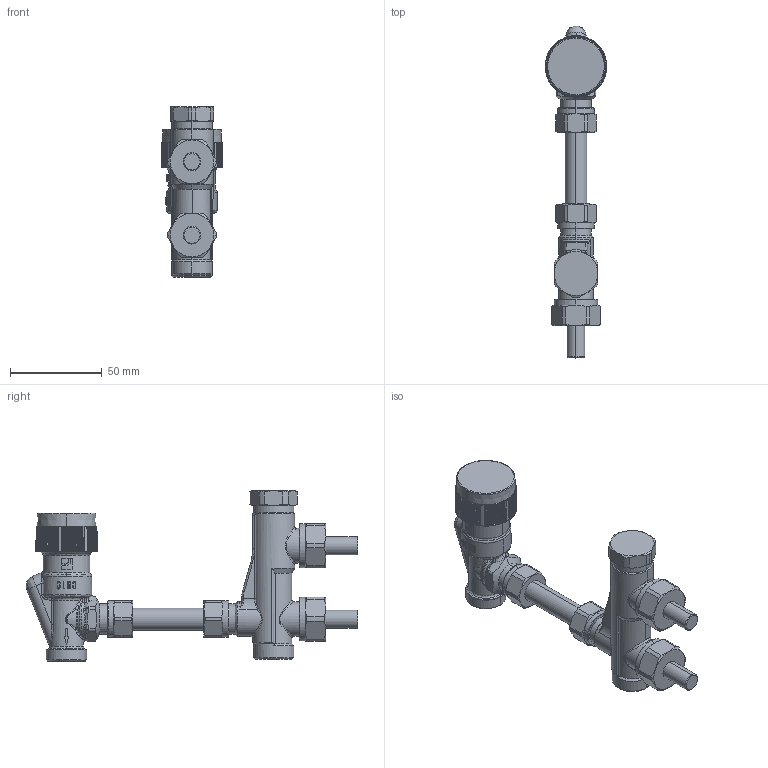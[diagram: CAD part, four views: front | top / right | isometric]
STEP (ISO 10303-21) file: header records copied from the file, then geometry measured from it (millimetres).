
FILE_DESCRIPTION (( 'STEP AP203' ), '1' );
FILE_NAME ('443100.STEP', '2021-06-21T13:27:23', ( '' ), ( '' ), 'SwSTEP 2.0', 'SolidWorks 2016', '' );
FILE_SCHEMA (( 'CONFIG_CONTROL_DESIGN' ));
Length unit declared in the file: millimetre
Products named in the file (1): 443100
Bounding box: 33.5 x 181.09 x 93 mm (x, y, z)
Volume: 122694.1 mm3; surface area: 26808.5 mm2
Topology: 1 solids, 1 shells, 918 faces, 2436 edges, 1535 vertices
Faces by surface type: plane 308, cylinder 262, cone 183, bspline 165
Entity records: 45871 total; most frequent: CARTESIAN_POINT 25570, ORIENTED_EDGE 4864, DIRECTION 3427, EDGE_CURVE 2432, VERTEX_POINT 1535, AXIS2_PLACEMENT_3D 1288, EDGE_LOOP 937, ADVANCED_FACE 918
